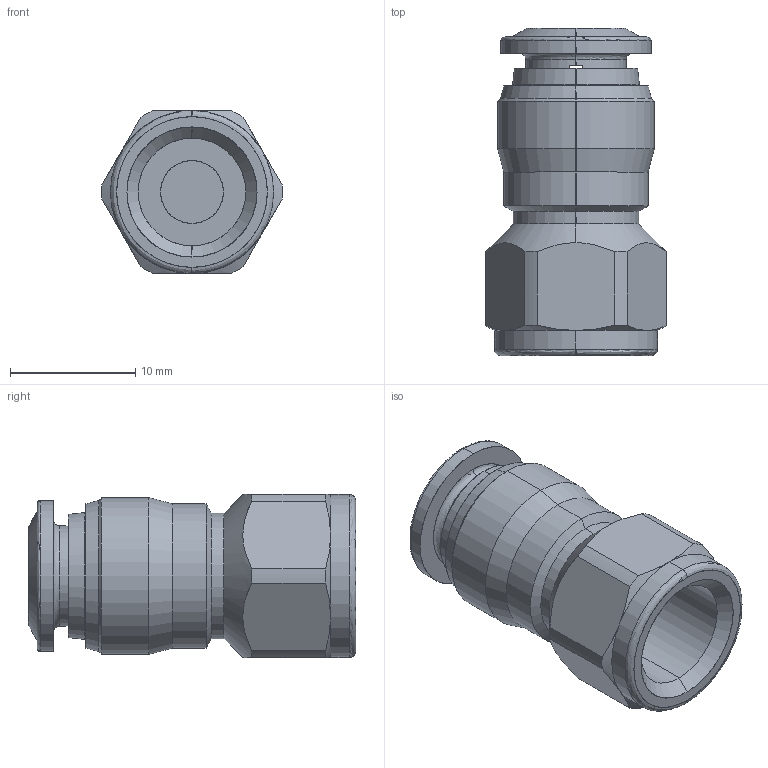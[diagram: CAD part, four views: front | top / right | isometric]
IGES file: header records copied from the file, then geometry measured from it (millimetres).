
Start section: SolidWorks IGES file using analytic representation for surfaces
Global section: file name: K:\Disegni Esecutivi\Serie 57000\ASSIEMI_57000\57030\ASSIEMI_PIENI_57030\5703000002.IGS; native system: SolidWorks 2007; preprocessor: SolidWorks 2007; author: cad02; date: 080201.143440; units: millimetre
Bounding box: 14.39 x 26.1 x 13 mm (x, y, z)
Surface area: 1754.3 mm2 (no closed solid volume)
Topology: 0 solids, 0 shells, 83 faces, 1012 edges, 1012 vertices
Faces by surface type: revolution 54, bspline 29
